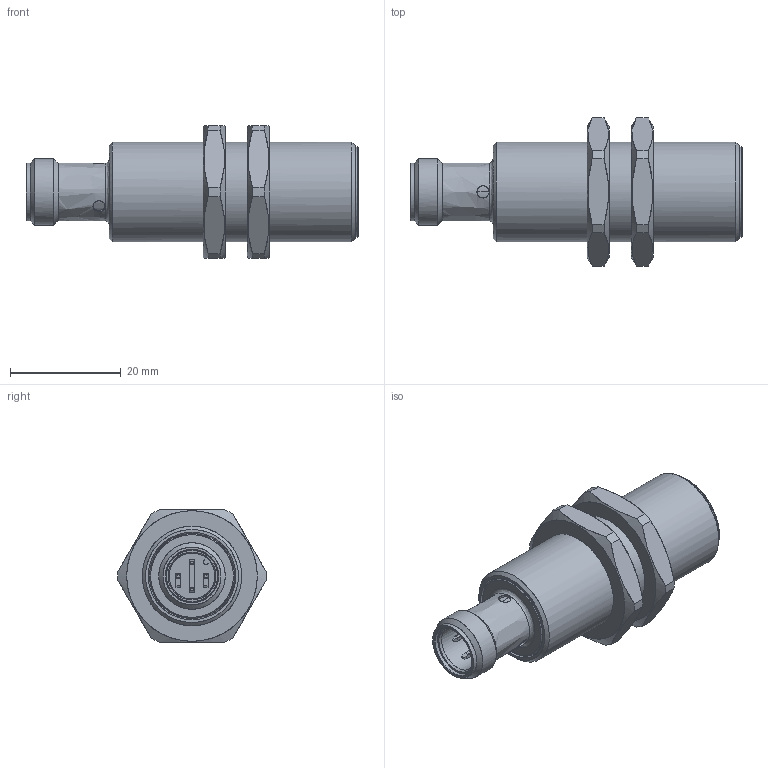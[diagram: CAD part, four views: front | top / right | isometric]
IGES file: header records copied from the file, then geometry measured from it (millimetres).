
Start section: C
Global section: file name: IFRM 18xx7M1_S14L.igs; native system:  By UGS Corp.; preprocessor: XPlus GENERIC/IGES 3.0; author: Author; organization: Title; date: 20111207.131008; units: millimetre
Bounding box: 60 x 26.8 x 24 mm (x, y, z)
Surface area: 5979.4 mm2 (no closed solid volume)
Topology: 0 solids, 0 shells, 152 faces, 856 edges, 853 vertices
Faces by surface type: bspline 152
